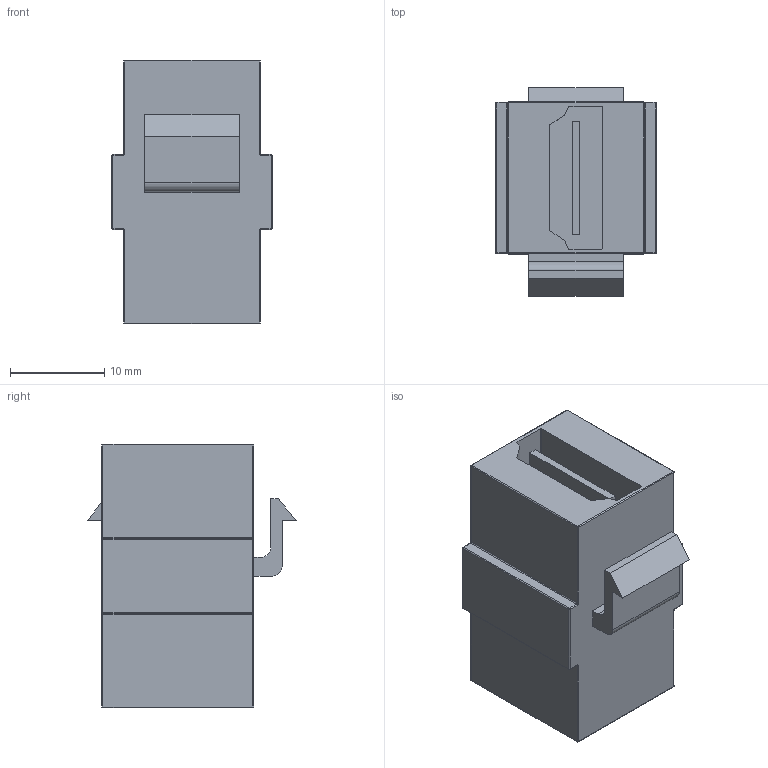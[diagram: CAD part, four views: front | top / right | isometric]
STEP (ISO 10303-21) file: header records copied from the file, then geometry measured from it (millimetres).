
FILE_DESCRIPTION(('FreeCAD Model'),'2;1');
FILE_NAME('Open CASCADE Shape Model','2026-04-24T10:52:14',(''),(''), 'Open CASCADE STEP processor 7.8','FreeCAD','Unknown');
FILE_SCHEMA(('AUTOMOTIVE_DESIGN { 1 0 10303 214 1 1 1 1 }'));
Length unit declared in the file: millimetre
Products named in the file (1): SIM-HDMI-WH-S
Bounding box: 17 x 22.1 x 28 mm (x, y, z)
Volume: 5870.6 mm3; surface area: 3527.6 mm2
Topology: 1 solids, 1 shells, 133 faces, 327 edges, 186 vertices
Faces by surface type: plane 55, cylinder 54, sphere 16, torus 8
Entity records: 3771 total; most frequent: DIRECTION 695, CARTESIAN_POINT 631, ORIENTED_EDGE 622, EDGE_CURVE 311, AXIS2_PLACEMENT_3D 250, LINE 195, VECTOR 195, VERTEX_POINT 186
